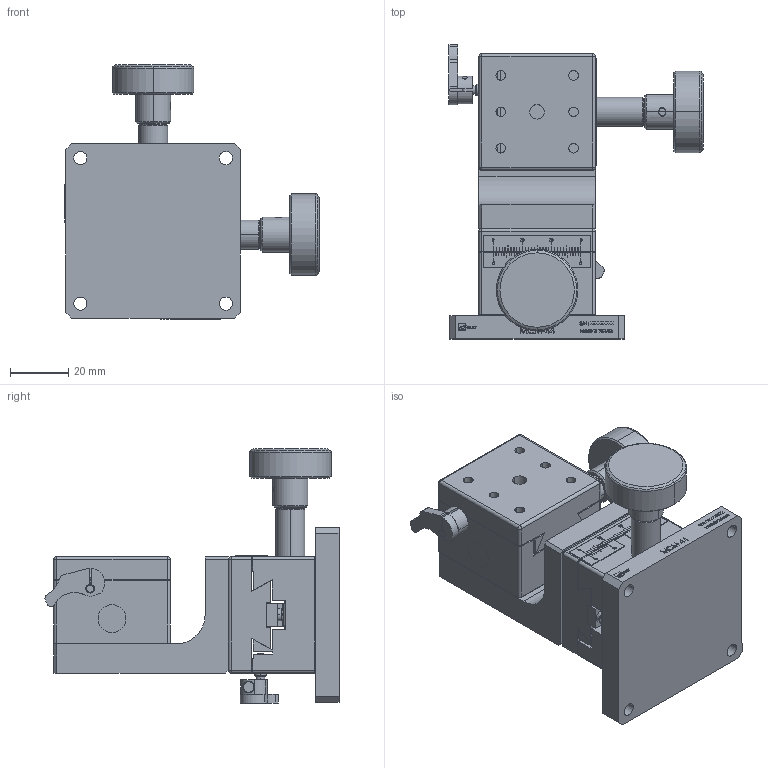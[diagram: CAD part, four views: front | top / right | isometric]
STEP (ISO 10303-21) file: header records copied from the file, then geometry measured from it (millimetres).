
FILE_DESCRIPTION (( 'STEP AP203' ), '1' );
FILE_NAME ('MCM-44-(«¬¿ý).STEP', '2013-10-03T08:24:16', ( '' ), ( '' ), 'SwSTEP 2.0', 'SolidWorks 2013', '' );
FILE_SCHEMA (( 'CONFIG_CONTROL_DESIGN' ));
Length unit declared in the file: millimetre
Products named in the file (4): Group1^MCM-44-(型錄); MCM-44-(型錄); Group3^MCM-44-(型錄); Group4^MCM-44-(型錄)
Assembly tree (3 placements, depth 2):
  MCM-44-(型錄)
    Group3^MCM-44-(型錄)
    Group4^MCM-44-(型錄)
    Group1^MCM-44-(型錄)
Bounding box: 87.3 x 101.02 x 87.3 mm (x, y, z)
Volume: 172931.6 mm3; surface area: 46283.8 mm2
Topology: 3 solids, 3 shells, 1735 faces, 4642 edges, 3017 vertices
Faces by surface type: plane 1175, bspline 239, cylinder 194, cone 97, torus 16, sphere 14
Entity records: 69887 total; most frequent: CARTESIAN_POINT 27543, ORIENTED_EDGE 9256, DIRECTION 7662, EDGE_CURVE 4628, LINE 3446, VECTOR 3446, VERTEX_POINT 3017, AXIS2_PLACEMENT_3D 2108
